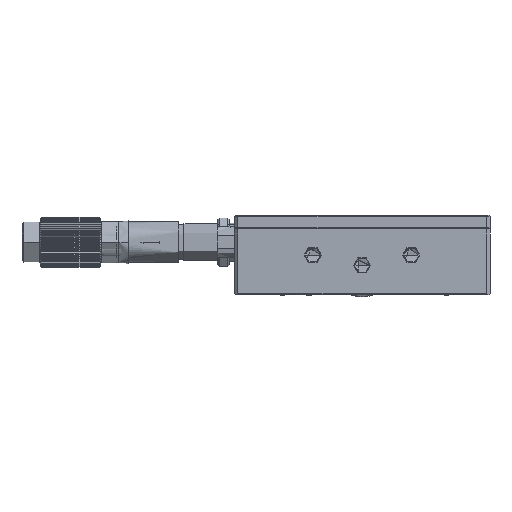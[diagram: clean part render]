
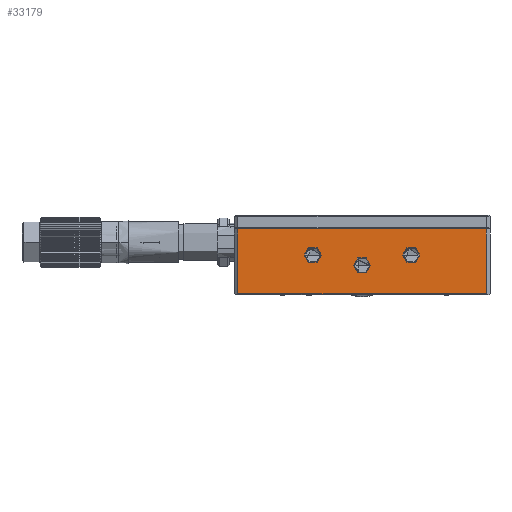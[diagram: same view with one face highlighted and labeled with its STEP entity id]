
A CAD part, front view. The second image highlights one B-rep face of the part: STEP entity #33179.
In plain terms, the highlighted planar face has unit normal (0, -1, 0).
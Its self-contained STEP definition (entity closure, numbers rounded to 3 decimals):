
#9930=CARTESIAN_POINT('',(45.72,0.,1.778));
#9931=DIRECTION('',(0.,1.,0.));
#9932=DIRECTION('',(1.,0.,0.));
#9933=AXIS2_PLACEMENT_3D('',#9930,#9931,#9932);
#9935=CARTESIAN_POINT('',(45.72,0.,1.778));
#9936=DIRECTION('',(0.,1.,0.));
#9937=DIRECTION('',(-1.,0.,0.));
#9938=AXIS2_PLACEMENT_3D('',#9935,#9936,#9937);
#9940=CARTESIAN_POINT('',(33.02,0.,-0.889));
#9941=DIRECTION('',(0.,1.,0.));
#9942=DIRECTION('',(-1.,0.,0.));
#9943=AXIS2_PLACEMENT_3D('',#9940,#9941,#9942);
#9945=CARTESIAN_POINT('',(33.02,0.,-0.889));
#9946=DIRECTION('',(0.,1.,0.));
#9947=DIRECTION('',(1.,0.,0.));
#9948=AXIS2_PLACEMENT_3D('',#9945,#9946,#9947);
#9950=CARTESIAN_POINT('',(20.32,0.,1.778));
#9951=DIRECTION('',(0.,1.,0.));
#9952=DIRECTION('',(1.,0.,0.));
#9953=AXIS2_PLACEMENT_3D('',#9950,#9951,#9952);
#9955=CARTESIAN_POINT('',(20.32,0.,1.778));
#9956=DIRECTION('',(0.,1.,0.));
#9957=DIRECTION('',(-1.,0.,0.));
#9958=AXIS2_PLACEMENT_3D('',#9955,#9956,#9957);
#9960=DIRECTION('',(0.,0.,1.));
#9961=VECTOR('',#9960,16.768);
#9962=CARTESIAN_POINT('',(65.04,0.,-8.259));
#9963=LINE('',#9962,#9961);
#9964=DIRECTION('',(-1.,0.,0.));
#9965=VECTOR('',#9964,64.04);
#9966=CARTESIAN_POINT('',(65.04,0.,-8.259));
#9967=LINE('',#9966,#9965);
#9968=DIRECTION('',(0.,0.,1.));
#9969=VECTOR('',#9968,16.768);
#9970=CARTESIAN_POINT('',(1.,0.,-8.259));
#9971=LINE('',#9970,#9969);
#9972=DIRECTION('',(1.,0.,0.));
#9973=VECTOR('',#9972,64.04);
#9974=CARTESIAN_POINT('',(1.,0.,8.509));
#9975=LINE('',#9974,#9973);
#19455=CARTESIAN_POINT('',(47.92,0.,1.778));
#19456=CARTESIAN_POINT('',(43.52,0.,1.778));
#19457=VERTEX_POINT('',#19455);
#19458=VERTEX_POINT('',#19456);
#19463=CARTESIAN_POINT('',(30.82,0.,-0.889));
#19464=CARTESIAN_POINT('',(35.22,0.,-0.889));
#19465=VERTEX_POINT('',#19463);
#19466=VERTEX_POINT('',#19464);
#19471=CARTESIAN_POINT('',(22.52,0.,1.778));
#19472=CARTESIAN_POINT('',(18.12,0.,1.778));
#19473=VERTEX_POINT('',#19471);
#19474=VERTEX_POINT('',#19472);
#19627=CARTESIAN_POINT('',(65.04,0.,8.509));
#19629=VERTEX_POINT('',#19627);
#19636=CARTESIAN_POINT('',(65.04,0.,-8.259));
#19638=VERTEX_POINT('',#19636);
#19664=CARTESIAN_POINT('',(1.,0.,8.509));
#19666=VERTEX_POINT('',#19664);
#19667=CARTESIAN_POINT('',(1.,0.,-8.259));
#19668=VERTEX_POINT('',#19667);
#33150=CARTESIAN_POINT('',(0.,0.,8.509));
#33151=DIRECTION('',(0.,1.,0.));
#33152=DIRECTION('',(0.,0.,1.));
#33153=AXIS2_PLACEMENT_3D('',#33150,#33151,#33152);
#33154=PLANE('',#33153);
#33155=ORIENTED_EDGE('',*,*,#28593,.F.);
#33156=ORIENTED_EDGE('',*,*,#28612,.T.);
#33157=ORIENTED_EDGE('',*,*,#28628,.T.);
#33158=ORIENTED_EDGE('',*,*,#20673,.T.);
#33159=EDGE_LOOP('',(#33155,#33156,#33157,#33158));
#33160=FACE_OUTER_BOUND('',#33159,.F.);
#33162=ORIENTED_EDGE('',*,*,#33161,.F.);
#33164=ORIENTED_EDGE('',*,*,#33163,.F.);
#33165=EDGE_LOOP('',(#33162,#33164));
#33166=FACE_BOUND('',#33165,.F.);
#33168=ORIENTED_EDGE('',*,*,#33167,.F.);
#33170=ORIENTED_EDGE('',*,*,#33169,.F.);
#33171=EDGE_LOOP('',(#33168,#33170));
#33172=FACE_BOUND('',#33171,.F.);
#33174=ORIENTED_EDGE('',*,*,#33173,.F.);
#33176=ORIENTED_EDGE('',*,*,#33175,.F.);
#33177=EDGE_LOOP('',(#33174,#33176));
#33178=FACE_BOUND('',#33177,.F.);
#33179=ADVANCED_FACE('',(#33160,#33166,#33172,#33178),#33154,.F.);
#9934=CIRCLE('',#9933,2.2);
#9939=CIRCLE('',#9938,2.2);
#9944=CIRCLE('',#9943,2.2);
#9949=CIRCLE('',#9948,2.2);
#9954=CIRCLE('',#9953,2.2);
#9959=CIRCLE('',#9958,2.2);
#20673=EDGE_CURVE('',#19666,#19629,#9975,.T.);
#28593=EDGE_CURVE('',#19638,#19629,#9963,.T.);
#28612=EDGE_CURVE('',#19638,#19668,#9967,.T.);
#28628=EDGE_CURVE('',#19668,#19666,#9971,.T.);
#33161=EDGE_CURVE('',#19465,#19466,#9944,.T.);
#33163=EDGE_CURVE('',#19466,#19465,#9949,.T.);
#33167=EDGE_CURVE('',#19473,#19474,#9954,.T.);
#33169=EDGE_CURVE('',#19474,#19473,#9959,.T.);
#33173=EDGE_CURVE('',#19457,#19458,#9934,.T.);
#33175=EDGE_CURVE('',#19458,#19457,#9939,.T.);
